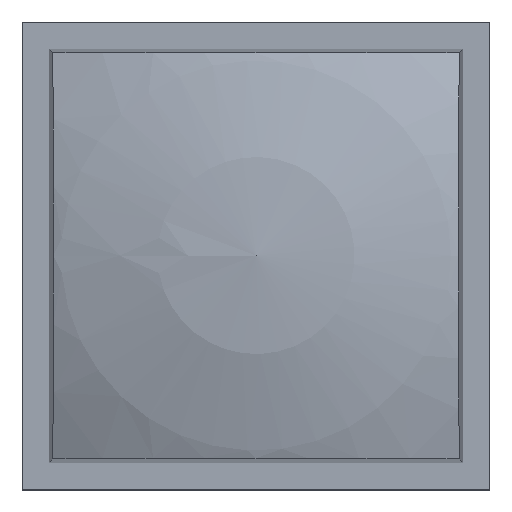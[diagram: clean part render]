
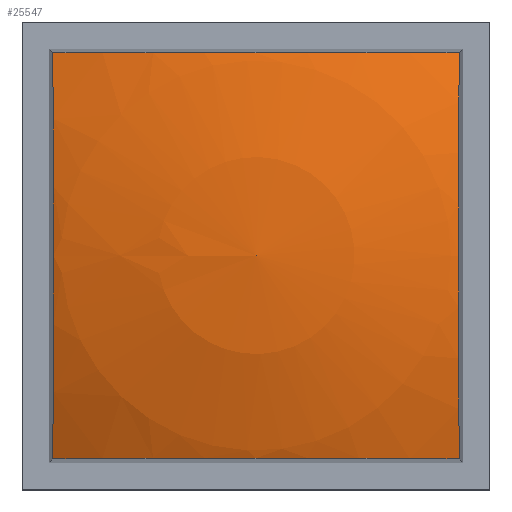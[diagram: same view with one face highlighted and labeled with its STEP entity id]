
A CAD part, top view. The second image highlights one B-rep face of the part: STEP entity #25547.
In plain terms, the highlighted spherical face has radius 17.5 mm.
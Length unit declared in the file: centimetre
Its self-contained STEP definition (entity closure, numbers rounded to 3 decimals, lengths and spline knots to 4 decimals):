
#323=SPHERICAL_SURFACE($,#26937,1.75);
#1311=FACE_OUTER_BOUND($,#2641,.T.);
#2641=EDGE_LOOP($,(#15999,#16000,#16001,#16002));
#4029=CIRCLE($,#26858,1.6609);
#4059=CIRCLE($,#26932,1.6609);
#4060=CIRCLE($,#26934,1.6609);
#4061=CIRCLE($,#26936,1.6609);
#9558=VERTEX_POINT($,#35171);
#9559=VERTEX_POINT($,#35173);
#9659=VERTEX_POINT($,#36195);
#9660=VERTEX_POINT($,#36197);
#12023=EDGE_CURVE($,#9558,#9559,#4029,.T.);
#12158=EDGE_CURVE($,#9659,#9660,#4059,.T.);
#12160=EDGE_CURVE($,#9660,#9558,#4060,.T.);
#12161=EDGE_CURVE($,#9559,#9659,#4061,.T.);
#15999=ORIENTED_EDGE($,*,*,#12158,.F.);
#16000=ORIENTED_EDGE($,*,*,#12161,.F.);
#16001=ORIENTED_EDGE($,*,*,#12023,.F.);
#16002=ORIENTED_EDGE($,*,*,#12160,.F.);
#25547=ADVANCED_FACE($,(#1311),#323,.T.);
#26858=AXIS2_PLACEMENT_3D($,#35174,#28824,#28825);
#26932=AXIS2_PLACEMENT_3D($,#36198,#29013,#29014);
#26934=AXIS2_PLACEMENT_3D($,#36201,#29018,#29019);
#26936=AXIS2_PLACEMENT_3D($,#36203,#29022,#29023);
#26937=AXIS2_PLACEMENT_3D($,#36204,#29024,#29025);
#28824=DIRECTION('center_axis',(0.,1.,
0.017));
#28825=DIRECTION('ref_axis',(0.,0.017,
-1.));
#29013=DIRECTION('center_axis',(0.,-1.,
0.017));
#29014=DIRECTION('ref_axis',(0.,0.017,
1.));
#29018=DIRECTION('center_axis',(-1.,0.,
0.017));
#29019=DIRECTION('ref_axis',(-0.017,0.,
-1.));
#29022=DIRECTION('center_axis',(1.,0.,
0.017));
#29023=DIRECTION('ref_axis',(-0.017,0.,
1.));
#29024=DIRECTION('center_axis',(0.,0.,
1.));
#29025=DIRECTION('ref_axis',(-1.,0.,0.));
#35171=CARTESIAN_POINT('',(-0.5236,0.5236,1.3406));
#35173=CARTESIAN_POINT('',(0.5236,0.5236,1.3406));
#35174=CARTESIAN_POINT('Origin',(0.,0.5511,
-0.2354));
#36195=CARTESIAN_POINT('',(0.5236,-0.5236,1.3406));
#36197=CARTESIAN_POINT('',(-0.5236,-0.5236,1.3406));
#36198=CARTESIAN_POINT('Origin',(0.,-0.5511,
-0.2354));
#36201=CARTESIAN_POINT('Origin',(-0.5511,0.,
-0.2354));
#36203=CARTESIAN_POINT('Origin',(0.5511,0.,
-0.2354));
#36204=CARTESIAN_POINT('Origin',(0.,0.,
-0.245));
